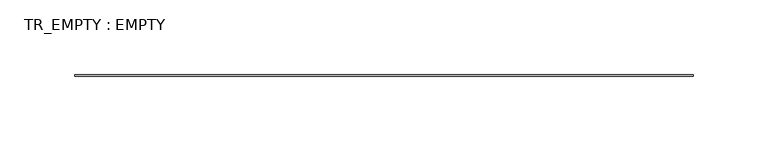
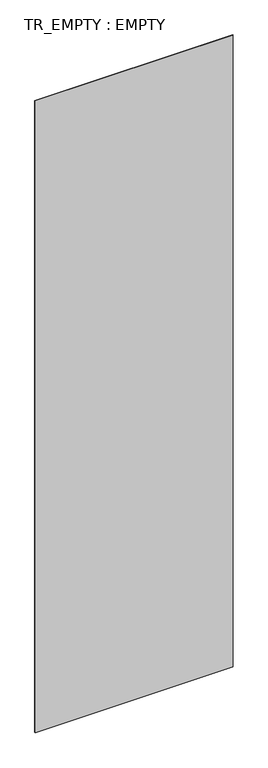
"""IFC4 building model written with IfcOpenShell, lengths in millimetres: plate geometry, TR_EMPTY : EMPTY."""

from ifc_helpers import new_model, si_unit, frame, origin, place, context, project, spatial, polyline, outline, extrude, source, transform, mapped, element, save


def tr_empty_empty_15cdecc1(model_context):
    return source(origin(), model_context, "Body", "SweptSolid", [
        extrude(outline(polyline([(207.5000002, -31.0), (-207.5000002, -31.0), (-207.5000002, -30.0), (207.5000002, -30.0), (207.5000002, -31.0)])), frame((0.0, 0.0, 50.0), z_axis=(0.0, 0.0, 1.0), x_axis=(1.0, 0.0, 0.0)), (0.0, 0.0, 1.0), 1400.0),
    ])


if __name__ == "__main__":
    model = new_model("IFC4")
    model_context = context("Model", 3, world=origin())
    ifc_project = project(units=[si_unit("LENGTHUNIT", "METRE", prefix="MILLI")], contexts=[model_context])
    site = spatial("IfcSite", under=ifc_project)
    building = spatial("IfcBuilding", under=site)
    placement = place(None, origin())
    tr_empty_empty_shape = tr_empty_empty_15cdecc1(model_context)
    element("IfcPlate", 1, ObjectType="TR_EMPTY : EMPTY", at=placement, inside=building, context=model_context, shape_type="MappedRepresentation", body=[
        mapped(tr_empty_empty_shape, transform((0.0, 0.0, 0.0), x_axis=(1.0, 0.0, 0.0), y_axis=(0.0, 1.0, 0.0), z_axis=(0.0, 0.0, 1.0))),
    ])
    save(model, "model.ifc")
